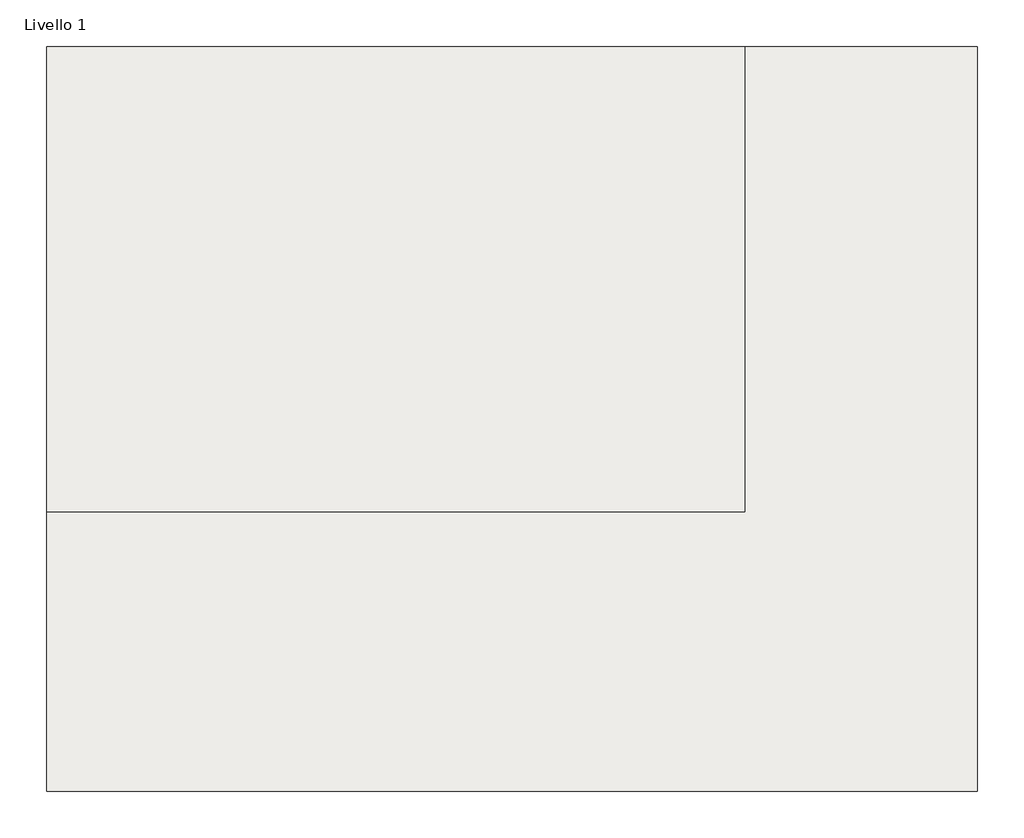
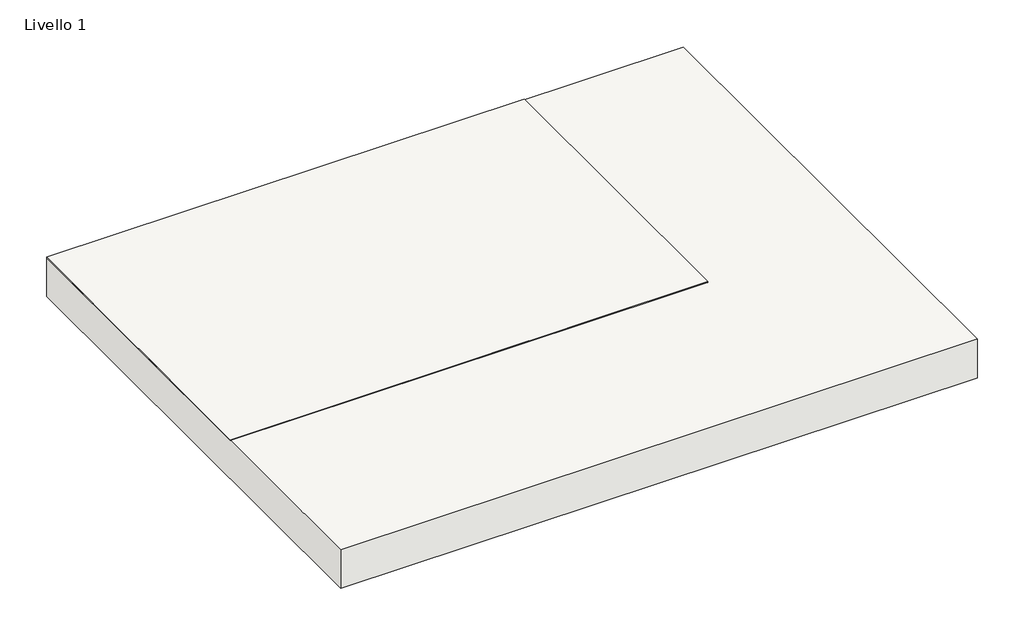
# One storey: 1 slab.
"""IFC4 building model written with IfcOpenShell, lengths in millimetres."""

from ifc_helpers import new_model, si_unit, frame, origin, place, context, project, spatial, polyline, outline, extrude, element, save

model = new_model("IFC4")

# Units and contexts
model_context = context("Model", 3, world=origin())
ifc_project = project(units=[si_unit("LENGTHUNIT", "METRE", prefix="MILLI")], contexts=[model_context])

# Site, building, storey
site = spatial("IfcSite", under=ifc_project)
building = spatial("IfcBuilding", under=site)
storey = spatial("IfcBuildingStorey", under=building, Name="Livello 1", Elevation=0.0)

# Slab
placement = place(None, origin())
element("IfcSlab", 1, ObjectType="MAPEI - Mapefloor parking system ME", at=placement, inside=storey, context=model_context, shape_type="SweptSolid", body=[
    extrude(outline(polyline([(2082.7963918, 934.9122843), (207.7963918, 934.9122843), (207.7963918, 2184.9122843), (2082.7963918, 2184.9122843), (2082.7963918, 934.9122843)])), frame((0.0, 0.0, -3.0), z_axis=(0.0, 0.0, 1.0), x_axis=(1.0, 0.0, 0.0)), (0.0, 0.0, 1.0), 3.0),
    extrude(outline(polyline([(2707.7963918, 184.9122843), (207.7963918, 184.9122843), (207.7963918, 2184.9122843), (2707.7963918, 2184.9122843), (2707.7963918, 184.9122843)])), frame((0.0, 0.0, -163.0), z_axis=(0.0, 0.0, 1.0), x_axis=(1.0, 0.0, 0.0)), (0.0, 0.0, 1.0), 160.0),
])

save(model, "model.ifc")
